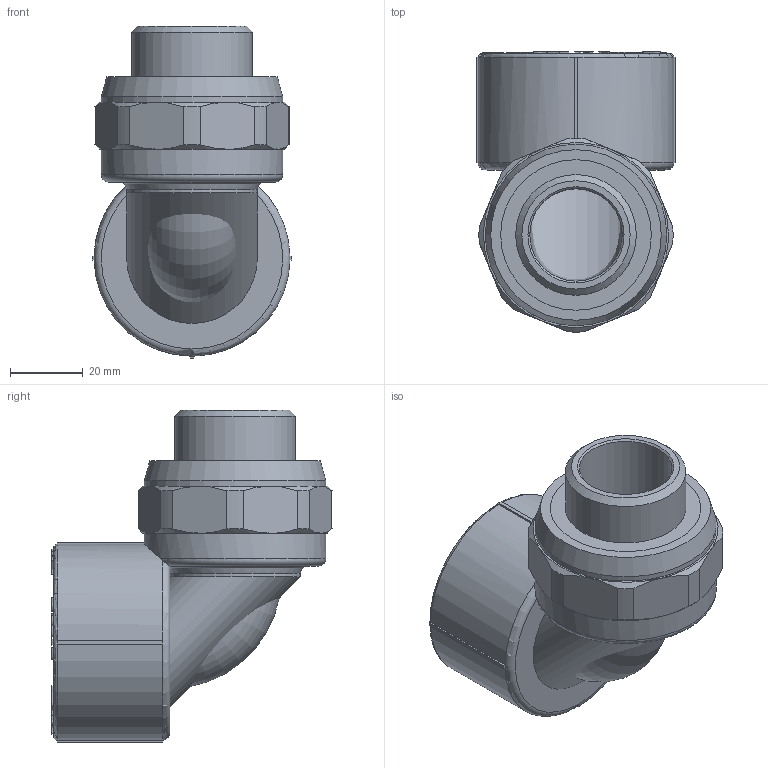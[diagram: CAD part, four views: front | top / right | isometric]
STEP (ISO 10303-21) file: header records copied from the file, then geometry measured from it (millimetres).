
FILE_DESCRIPTION(('STEP AP203'), '1');
FILE_NAME('ÂÐ.752212.042 - VTp.753.0.04006', '', ('UNSPECIFIED'), ('UNSPECIFIED'), 'C3D Converter', 'C3D Toolkit', '');
FILE_SCHEMA(('CONFIG_CONTROL_DESIGN'));
Length unit declared in the file: millimetre
Products named in the file (4): ВР.752212.042; ВР.302639.013.000; ВР.713751.003
Assembly tree (3 placements, depth 3):
  ВР.752212.042
    ВР.302639.013.000
      ВР.713751.003
      (unnamed)
Bounding box: 55 x 77.24 x 91.5 mm (x, y, z)
Volume: 107177 mm3; surface area: 41392.4 mm2
Topology: 3 solids, 3 shells, 681 faces, 1864 edges, 1234 vertices
Faces by surface type: plane 312, extrusion 312, cylinder 37, torus 12, cone 8
Full cylindrical faces by diameter (mm): 25.5 x3, 29.4 x2, 33.249 x1, 34 x2, 36 x1, 37.5 x6, 41.5 x8, 50 x2
Entity records: 22965 total; most frequent: CARTESIAN_POINT 6761, ORIENTED_EDGE 3632, DIRECTION 2385, EDGE_CURVE 1816, VECTOR 1323, VERTEX_POINT 1227, LINE 1011, B_SPLINE_CURVE_WITH_KNOTS 964
